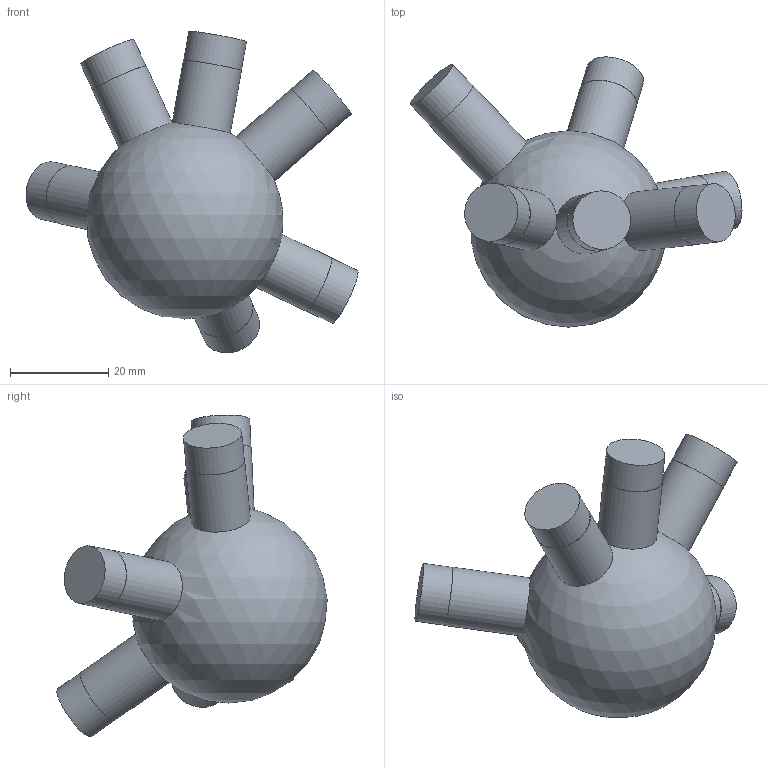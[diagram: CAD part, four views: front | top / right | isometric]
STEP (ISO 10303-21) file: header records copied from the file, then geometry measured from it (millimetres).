
FILE_DESCRIPTION(('Open CASCADE Model'),'2;1');
FILE_NAME('Open CASCADE Shape Model','2026-10-21T12:47:57',('Author'),( 'Open CASCADE'),'Open CASCADE STEP processor 7.9','Open CASCADE 7.9' ,'Unknown');
FILE_SCHEMA(('AUTOMOTIVE_DESIGN { 1 0 10303 214 1 1 1 1 }'));
Length unit declared in the file: millimetre
Products named in the file (1): Open CASCADE STEP translator 7.9 49
Bounding box: 67.49 x 54.97 x 65.42 mm (x, y, z)
Volume: 46498.6 mm3; surface area: 9456.1 mm2
Topology: 1 solids, 1 shells, 25 faces, 49 edges, 33 vertices
Faces by surface type: cylinder 12, plane 12, sphere 1
Full cylindrical faces by diameter (mm): 11.9 x6, 12 x6
Entity records: 1867 total; most frequent: CARTESIAN_POINT 810, DIRECTION 214, ORIENTED_EDGE 96, PCURVE 96, DEFINITIONAL_REPRESENTATION 96, LINE 72, VECTOR 72, AXIS2_PLACEMENT_3D 62
